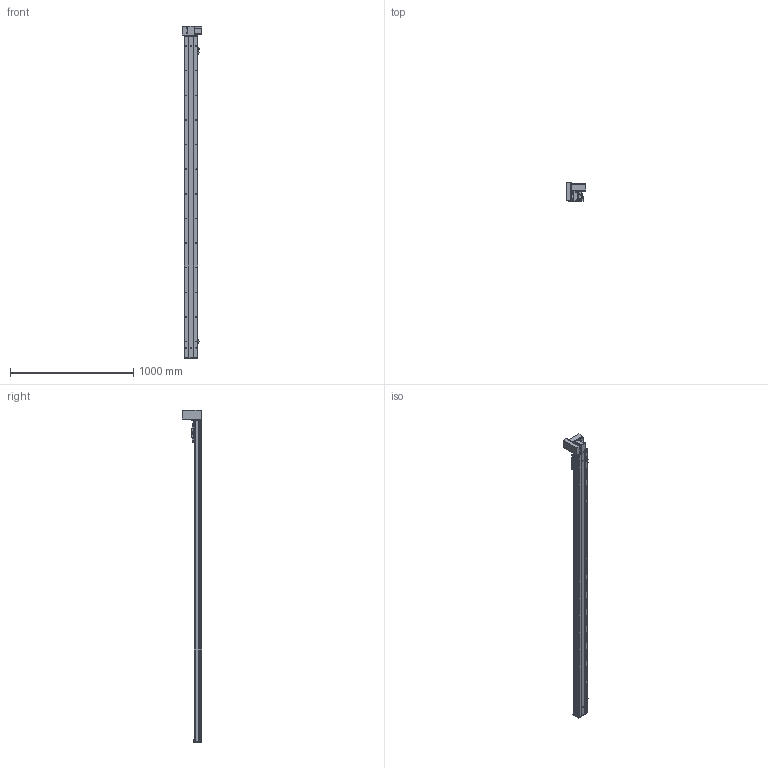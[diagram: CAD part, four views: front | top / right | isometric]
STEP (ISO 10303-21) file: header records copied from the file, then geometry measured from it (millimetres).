
FILE_DESCRIPTION (( 'STEP AP203' ), '1' );
FILE_NAME ('Y10CB-D90-S2350-UL-P400W.STEP', '2020-02-16T08:17:53', ( '微软用户' ), ( '微软中国' ), 'SwSTEP 2.0', 'SolidWorks 2017', '' );
FILE_SCHEMA (( 'CONFIG_CONTROL_DESIGN' ));
Length unit declared in the file: millimetre
Products named in the file (18): Y100-135俋离換覜ん--; 0B-源倛裔啣; Y10B-耜蚾蟀諉啣----; 0B-埴倛裔啣; 00B-俋欶BM--; 10CB-詩湍-; Y10B--々湍喘謫眊--666; Y10CB- 掛极耜裔啣-毀---; 0CB-雄赽釱---; Y10CB-D90-S2350-UL-P400W; Y10C---詩湍揤啣; 0Cb-俋欶---; 10CB9-掛极; Y10B-々湍喘謫眊楊擘啣--; 10CB-耜裔; 0B-萇儂楊擘啣; Y135C-陔俋离換覜結え-; san松下电机400不带刹车----
Assembly tree (21 placements, depth 2):
  Y10CB-D90-S2350-UL-P400W
    0CB-雄赽釱---
    0Cb-俋欶---
    Y10B-々湍喘謫眊楊擘啣--
    0B-萇儂楊擘啣
    san松下电机400不带刹车----
    0B-源倛裔啣
    0B-埴倛裔啣
    10CB-詩湍-
    Y10CB- 掛极耜裔啣-毀---  x2
    Y10C---詩湍揤啣  x2
    10CB9-掛极
    10CB-耜裔
    Y135C-陔俋离換覜結え-
    Y100-135俋离換覜ん--  x3
    Y10B-耜蚾蟀諉啣----
    00B-俋欶BM--
    Y10B--々湍喘謫眊--666
Bounding box: 157 x 155.5 x 2696 mm (x, y, z)
Volume: 5491491.9 mm3; surface area: 2600141.5 mm2
Topology: 21 solids, 21 shells, 1074 faces, 2923 edges, 1898 vertices
Faces by surface type: cylinder 559, plane 491, cone 24
Entity records: 34412 total; most frequent: CARTESIAN_POINT 6505, DIRECTION 5474, ORIENTED_EDGE 5316, EDGE_CURVE 2658, AXIS2_PLACEMENT_3D 1957, VERTEX_POINT 1724, LINE 1560, VECTOR 1560
